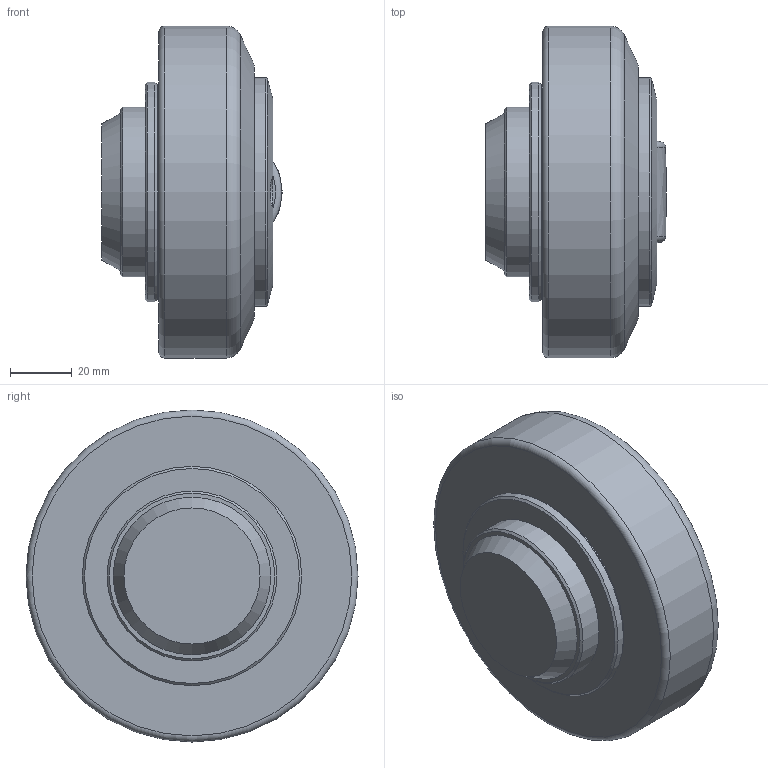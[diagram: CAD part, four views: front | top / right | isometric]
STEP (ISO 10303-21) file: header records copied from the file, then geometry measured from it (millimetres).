
FILE_DESCRIPTION(/* description */ (''),/* implementation_level */ '2;1');
FILE_NAME(/* name */ 'C:\Users\gabriele oddo\Desktop\400-0078.step',/* time_stamp */ '2023-07-26T09:15:07+02:00',/* author */ ('gabriele oddo'),/* organization */ (''),/* preprocessor_version */ 'ST-DEVELOPER v19',/* originating_system */ 'Autodesk Inventor 2023',/* authorisation */ '');
FILE_SCHEMA (('AUTOMOTIVE_DESIGN { 1 0 10303 214 3 1 1 }'));
Length unit declared in the file: millimetre
Products named in the file (1): 400-0078
Bounding box: 58.4 x 107.5 x 107.5 mm (x, y, z)
Volume: 340826.9 mm3; surface area: 30744.7 mm2
Topology: 1 solids, 1 shells, 44 faces, 102 edges, 68 vertices
Faces by surface type: plane 25, cylinder 7, cone 6, torus 5, bspline 1
Full cylindrical faces by diameter (mm): 10.7 x2, 55 x1, 69 x1, 71 x1, 74 x1, 107.5 x1
Entity records: 1414 total; most frequent: CARTESIAN_POINT 296, DIRECTION 223, ORIENTED_EDGE 204, EDGE_CURVE 102, AXIS2_PLACEMENT_3D 86, VERTEX_POINT 68, EDGE_LOOP 52, LINE 51
